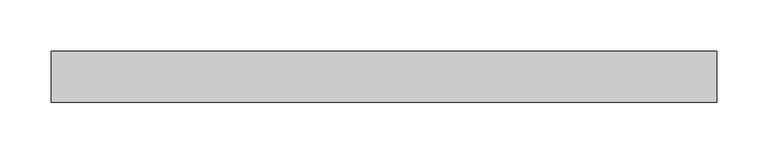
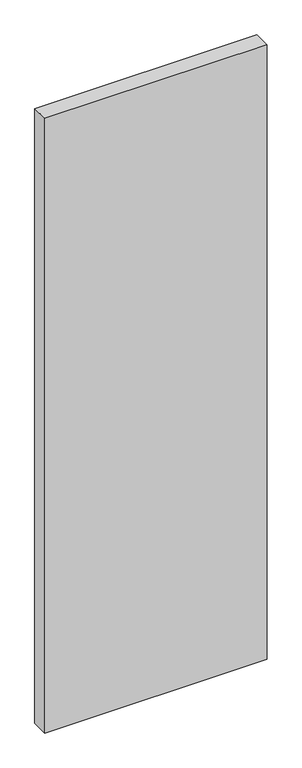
"""IFC4 building model written with IfcOpenShell, lengths in millimetres: plate geometry, Системная панель : Стекло(50мм)."""

from ifc_helpers import new_model, si_unit, origin, origin_with_axes, place, context, project, spatial, polyline, outline, extrude, source, transform, mapped, element, save


def plate_b477a77f(model_context):
    return source(origin(), model_context, "Body", "SweptSolid", [
        extrude(outline(polyline([(325.0, -25.0), (-325.0, -25.0), (-325.0, 25.0), (325.0, 25.0), (325.0, -25.0)])), origin_with_axes(), (0.0, 0.0, 1.0), 1900.0),
    ])


if __name__ == "__main__":
    model = new_model("IFC4")
    model_context = context("Model", 3, world=origin())
    ifc_project = project(units=[si_unit("LENGTHUNIT", "METRE", prefix="MILLI")], contexts=[model_context])
    site = spatial("IfcSite", under=ifc_project)
    building = spatial("IfcBuilding", under=site)
    placement = place(None, origin())
    plate_shape = plate_b477a77f(model_context)
    element("IfcPlate", 1, ObjectType="Системная панель : Стекло(50мм)", at=placement, inside=building, context=model_context, shape_type="MappedRepresentation", body=[
        mapped(plate_shape, transform((0.0, 0.0, 0.0), x_axis=(1.0, 0.0, 0.0), y_axis=(0.0, 1.0, 0.0), z_axis=(0.0, 0.0, 1.0))),
    ])
    save(model, "model.ifc")
